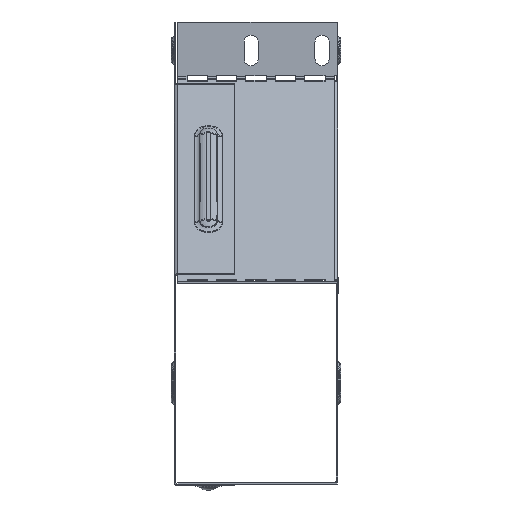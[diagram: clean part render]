
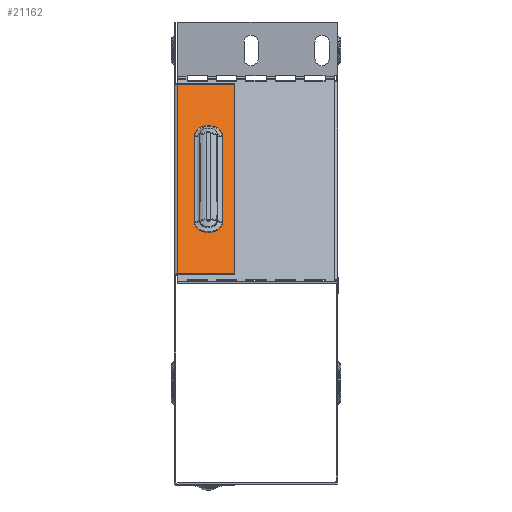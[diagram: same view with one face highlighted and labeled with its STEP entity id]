
A CAD part, left-side view. The second image highlights one B-rep face of the part: STEP entity #21162.
In plain terms, the highlighted planar face has unit normal (-0.707, 0, 0.707).
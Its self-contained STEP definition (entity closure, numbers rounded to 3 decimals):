
#103 = VERTEX_POINT ( 'NONE', #8059 ) ;
#606 = CIRCLE ( 'NONE', #19397, 6.917 ) ;
#1161 = VECTOR ( 'NONE', #1940, 1000. ) ;
#1560 = VERTEX_POINT ( 'NONE', #15097 ) ;
#1611 = EDGE_CURVE ( 'NONE', #4914, #12084, #606, .T. ) ;
#1715 = EDGE_CURVE ( 'NONE', #103, #3596, #6529, .T. ) ;
#1718 = DIRECTION ( 'NONE',  ( -0.707, 0., -0.707 ) ) ;
#1940 = DIRECTION ( 'NONE',  ( -0.707, 0., -0.707 ) ) ;
#2002 = ORIENTED_EDGE ( 'NONE', *, *, #19469, .T. ) ;
#2113 = EDGE_CURVE ( 'NONE', #22795, #4914, #18579, .T. ) ;
#2292 = CARTESIAN_POINT ( 'NONE',  ( -53.96, 80.8, 197.917 ) ) ;
#2636 = LINE ( 'NONE', #10728, #6218 ) ;
#2647 = EDGE_CURVE ( 'NONE', #1560, #9802, #5282, .T. ) ;
#3251 = EDGE_LOOP ( 'NONE', ( #19294, #19002, #10820, #9151 ) ) ;
#3520 = ORIENTED_EDGE ( 'NONE', *, *, #6014, .T. ) ;
#3596 = VERTEX_POINT ( 'NONE', #10155 ) ;
#3777 = CARTESIAN_POINT ( 'NONE',  ( -79.725, 56.983, 172.152 ) ) ;
#3791 = PLANE ( 'NONE',  #21518 ) ;
#4574 = DIRECTION ( 'NONE',  ( 0.707, 0., 0.707 ) ) ;
#4804 = DIRECTION ( 'NONE',  ( 0.707, 0., -0.707 ) ) ;
#4914 = VERTEX_POINT ( 'NONE', #9662 ) ;
#5282 = LINE ( 'NONE', #13301, #23178 ) ;
#6014 = EDGE_CURVE ( 'NONE', #12084, #16816, #15184, .T. ) ;
#6197 = CARTESIAN_POINT ( 'NONE',  ( -122.152, 63.9, 129.725 ) ) ;
#6218 = VECTOR ( 'NONE', #17871, 1000. ) ;
#6529 = LINE ( 'NONE', #2292, #10360 ) ;
#6592 = VECTOR ( 'NONE', #4574, 1000. ) ;
#7447 = ORIENTED_EDGE ( 'NONE', *, *, #2113, .T. ) ;
#7764 = LINE ( 'NONE', #11292, #22131 ) ;
#8059 = CARTESIAN_POINT ( 'NONE',  ( -53.96, 79., 197.917 ) ) ;
#9151 = ORIENTED_EDGE ( 'NONE', *, *, #20243, .F. ) ;
#9166 = CARTESIAN_POINT ( 'NONE',  ( -79.725, 56.983, 172.152 ) ) ;
#9339 = CARTESIAN_POINT ( 'NONE',  ( -79.725, 70.817, 172.152 ) ) ;
#9475 = DIRECTION ( 'NONE',  ( 0., 1., 0. ) ) ;
#9542 = FACE_BOUND ( 'NONE', #12537, .T. ) ;
#9662 = CARTESIAN_POINT ( 'NONE',  ( -122.152, 56.983, 129.725 ) ) ;
#9802 = VERTEX_POINT ( 'NONE', #12575 ) ;
#10155 = CARTESIAN_POINT ( 'NONE',  ( -53.96, 50.8, 197.917 ) ) ;
#10360 = VECTOR ( 'NONE', #15490, 1000. ) ;
#10728 = CARTESIAN_POINT ( 'NONE',  ( -125.938, 50.8, 125.938 ) ) ;
#10820 = ORIENTED_EDGE ( 'NONE', *, *, #1715, .F. ) ;
#10990 = CARTESIAN_POINT ( 'NONE',  ( -125.938, 80.8, 125.938 ) ) ;
#11292 = CARTESIAN_POINT ( 'NONE',  ( -51.838, 79., 200.038 ) ) ;
#12084 = VERTEX_POINT ( 'NONE', #17490 ) ;
#12468 = ORIENTED_EDGE ( 'NONE', *, *, #1611, .T. ) ;
#12507 = DIRECTION ( 'NONE',  ( 0.707, 0., 0.707 ) ) ;
#12537 = EDGE_LOOP ( 'NONE', ( #3520, #2002, #7447, #12468 ) ) ;
#12575 = CARTESIAN_POINT ( 'NONE',  ( -147.917, 79., 103.96 ) ) ;
#13301 = CARTESIAN_POINT ( 'NONE',  ( -147.917, 81.899, 103.96 ) ) ;
#13586 = DIRECTION ( 'NONE',  ( -0.5, 0.707, -0.5 ) ) ;
#13732 = DIRECTION ( 'NONE',  ( 0.707, 0., -0.707 ) ) ;
#14744 = AXIS2_PLACEMENT_3D ( 'NONE', #18071, #4804, #21663 ) ;
#15097 = CARTESIAN_POINT ( 'NONE',  ( -147.917, 50.8, 103.96 ) ) ;
#15184 = LINE ( 'NONE', #23614, #6592 ) ;
#15490 = DIRECTION ( 'NONE',  ( 0., -1., 0. ) ) ;
#15754 = CIRCLE ( 'NONE', #14744, 6.917 ) ;
#16271 = FACE_OUTER_BOUND ( 'NONE', #3251, .T. ) ;
#16816 = VERTEX_POINT ( 'NONE', #9339 ) ;
#17490 = CARTESIAN_POINT ( 'NONE',  ( -122.152, 70.817, 129.725 ) ) ;
#17871 = DIRECTION ( 'NONE',  ( 0.707, 0., 0.707 ) ) ;
#18071 = CARTESIAN_POINT ( 'NONE',  ( -79.725, 63.9, 172.152 ) ) ;
#18579 = LINE ( 'NONE', #3777, #1161 ) ;
#19002 = ORIENTED_EDGE ( 'NONE', *, *, #22765, .T. ) ;
#19294 = ORIENTED_EDGE ( 'NONE', *, *, #2647, .F. ) ;
#19397 = AXIS2_PLACEMENT_3D ( 'NONE', #6197, #13732, #13586 ) ;
#19469 = EDGE_CURVE ( 'NONE', #16816, #22795, #15754, .T. ) ;
#20243 = EDGE_CURVE ( 'NONE', #9802, #103, #7764, .T. ) ;
#20411 = DIRECTION ( 'NONE',  ( 0.707, 0., -0.707 ) ) ;
#21162 = ADVANCED_FACE ( 'NONE', ( #9542, #16271 ), #3791, .F. ) ;
#21518 = AXIS2_PLACEMENT_3D ( 'NONE', #10990, #20411, #1718 ) ;
#21663 = DIRECTION ( 'NONE',  ( -0.5, 0.707, -0.5 ) ) ;
#22131 = VECTOR ( 'NONE', #12507, 1000. ) ;
#22765 = EDGE_CURVE ( 'NONE', #1560, #3596, #2636, .T. ) ;
#22795 = VERTEX_POINT ( 'NONE', #9166 ) ;
#23178 = VECTOR ( 'NONE', #9475, 1000. ) ;
#23614 = CARTESIAN_POINT ( 'NONE',  ( -79.725, 70.817, 172.152 ) ) ;
